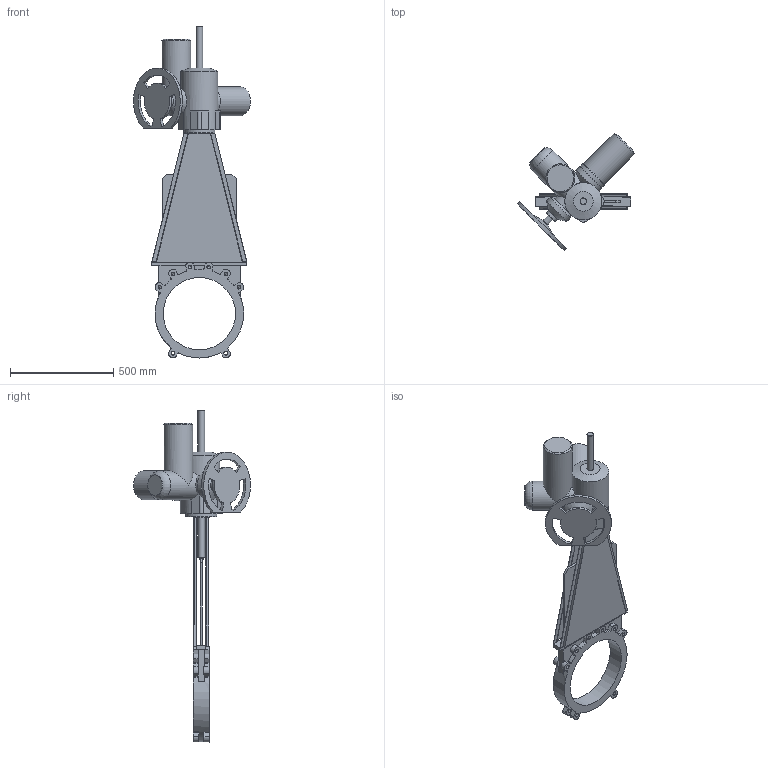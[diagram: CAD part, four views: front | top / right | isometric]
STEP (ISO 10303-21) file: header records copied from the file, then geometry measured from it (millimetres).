
FILE_DESCRIPTION(('STEP AP203'), '1');
FILE_NAME('K21GVA_DN350+MT903.A 30', '', ('UNSPECIFIED'), ('UNSPECIFIED'), 'ASCON STEP Converter 1.6', 'ASCON Math Kernel', '');
FILE_SCHEMA(('CONFIG_CONTROL_DESIGN'));
Length unit declared in the file: millimetre
Bounding box: 565.84 x 565.84 x 1605.5 mm (x, y, z)
Volume: 28886888.2 mm3; surface area: 2336335.1 mm2
Topology: 1 solids, 1 shells, 326 faces, 898 edges, 580 vertices
Faces by surface type: plane 180, cylinder 119, cone 26, torus 1
Full cylindrical faces by diameter (mm): 10.106 x4, 14 x8, 17.294 x12, 19.294 x4, 32 x3, 60 x1, 80 x1, 100 x1, 140 x4, 147 x1, 150 x1, 151 x1, 350 x1
Entity records: 13686 total; most frequent: CARTESIAN_POINT 2882, DIRECTION 1737, ORIENTED_EDGE 1628, EDGE_CURVE 814, AXIS2_PLACEMENT_3D 629, VERTEX_POINT 564, LINE 479, VECTOR 479
